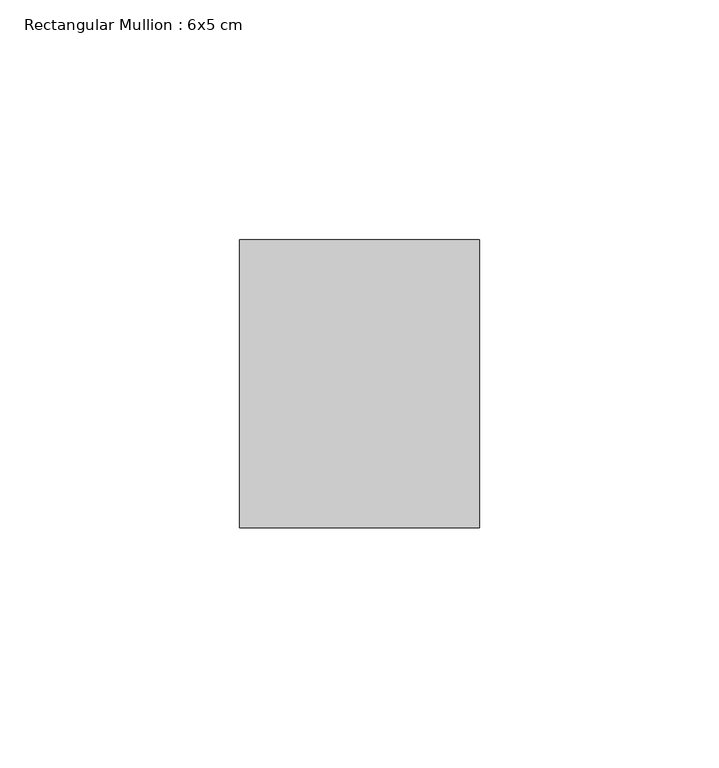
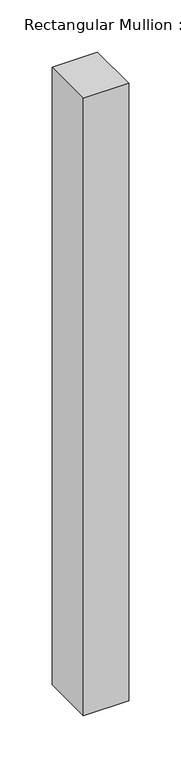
"""IFC4 building model written with IfcOpenShell, lengths in millimetres: member geometry, Rectangular Mullion : 6x5 cm."""

from ifc_helpers import new_model, si_unit, frame, origin, place, context, project, spatial, polyline, outline, extrude, source, transform, mapped, element, save


def rectangular_mullion_6x5_cm_048b1182(model_context):
    return source(origin(), model_context, "Body", "SweptSolid", [
        extrude(outline(polyline([(0.0, 80.0), (0.0, 20.0), (-50.0, 20.0), (-50.0, 80.0), (0.0, 80.0)])), frame((0.0, 0.0, -722.8416147), z_axis=(0.0, 0.0, 1.0), x_axis=(1.0, 0.0, 0.0)), (0.0, 0.0, 1.0), 722.8416147),
    ])


if __name__ == "__main__":
    model = new_model("IFC4")
    model_context = context("Model", 3, world=origin())
    ifc_project = project(units=[si_unit("LENGTHUNIT", "METRE", prefix="MILLI")], contexts=[model_context])
    site = spatial("IfcSite", under=ifc_project)
    building = spatial("IfcBuilding", under=site)
    placement = place(None, origin())
    rectangular_mullion_6x5_cm_shape = rectangular_mullion_6x5_cm_048b1182(model_context)
    element("IfcMember", 1, ObjectType="Rectangular Mullion : 6x5 cm", at=placement, inside=building, context=model_context, shape_type="MappedRepresentation", body=[
        mapped(rectangular_mullion_6x5_cm_shape, transform((0.0, 0.0, 0.0), x_axis=(1.0, 0.0, 0.0), y_axis=(0.0, 1.0, 0.0), z_axis=(0.0, 0.0, 1.0))),
    ])
    save(model, "model.ifc")
